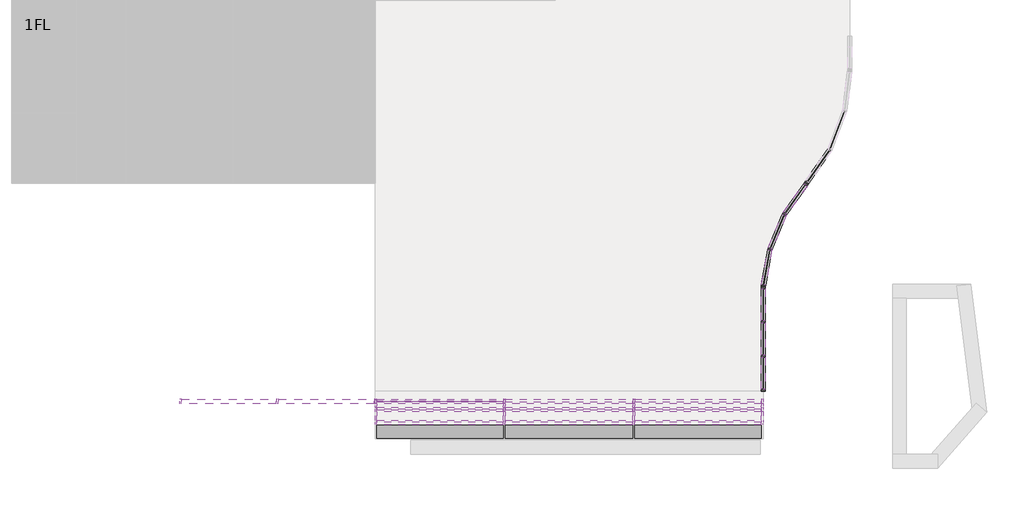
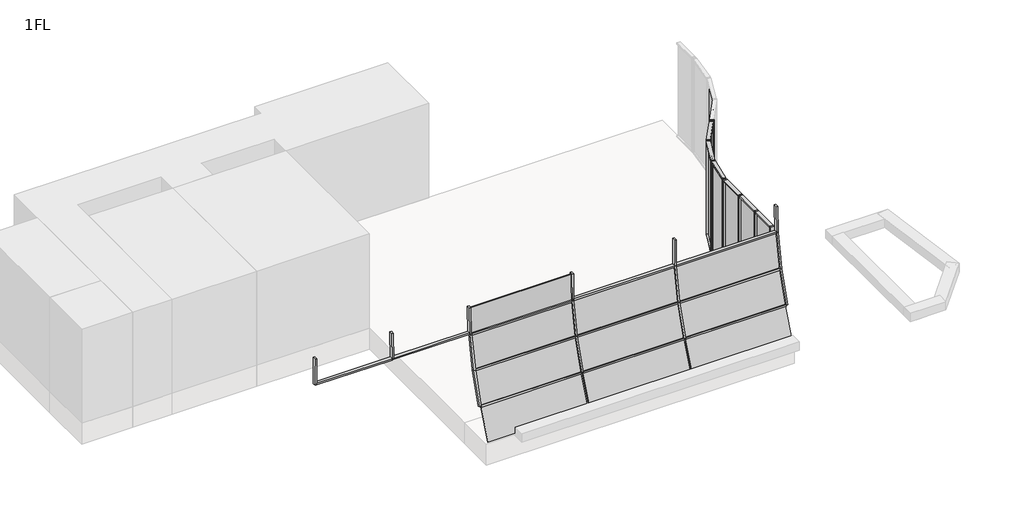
# One storey, part 1 of 2: 49 members, 18 plates.
"""IFC4 building model written with IfcOpenShell, lengths in millimetres."""

from ifc_helpers import new_model, si_unit, origin, place, context, project, spatial, transform, mapped, element, save
from components import member_70x150_4d24a05e, member_70x150_5c89d520, member_70x150_ebebe8d5, member_70x150_2632d942, member_70x150_0479a1cf, member_70x150_f2f57c5c, member_70x150_14443979, member_70x150_8f0671c1, member_70x150_d3b90ac0, member_70x150_846b0a58, member_70x150_fe2709cc, member_70x150_b7995fa3, member_70x150_663fd2c9, member_70x150_17e14e75, member_70x150_2ab56e3e, member_70x150_56af4ca9, member_70x150_03ec326a, member_70x150_3a6e4ddf, member_70x150_1d1a160b, member_70x150_440e44aa, member_70x150_7321a808, member_70x150_30001a1b, member_70x150_003f591b, member_70x150_271f9d11, member_70x150_020e1844, member_70x150_039baa39, member_70x150_b13c434b, member_70x150_567bd6b5, plate_7901c3a2, plate_e556b48b, plate_67e70ea2, plate_7e81487f, plate_5699c27d, plate_c64fcfb8, plate_3a21bd67, plate_3dea5f32, plate_f0e572d7, plate_c5bdbefa, plate_402fed1d, plate_96bf0072, plate_c99299e2, plate_2b88b301

model = new_model("IFC4")

# Units and contexts
model_context = context("Model", 3, world=origin())
ifc_project = project(units=[si_unit("LENGTHUNIT", "METRE", prefix="MILLI")], contexts=[model_context])

# Site, building, storey
site = spatial("IfcSite", under=ifc_project)
building = spatial("IfcBuilding", under=site)
storey = spatial("IfcBuildingStorey", under=building, Name="1FL", Elevation=100.0)

# Members
placement = place(None, origin())
member_70x150_shape = member_70x150_4d24a05e(model_context)
element("IfcMember", 1, ObjectType="長方形のマリオン : 70x150", at=placement, inside=storey, context=model_context, shape_type="MappedRepresentation", body=[
    mapped(member_70x150_shape, transform((-2015.9784025, -3918.6105823, 4599.9998123), x_axis=(0.0, 0.08763877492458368, 0.996152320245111), y_axis=(0.0, -0.996152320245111, 0.08763877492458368), z_axis=(1.0, 0.0, 0.0))),
])
element("IfcMember", 2, ObjectType="長方形のマリオン : 70x150", at=placement, inside=storey, context=model_context, shape_type="MappedRepresentation", body=[
    mapped(member_70x150_shape, transform((-11247.6450692, -3922.9667125, 4552.0971767), x_axis=(0.0, 0.09347810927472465, 0.9956213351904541), y_axis=(0.0, -0.9956213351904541, 0.09347810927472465), z_axis=(1.0, 0.0, 0.0))),
])
element("IfcMember", 3, ObjectType="長方形のマリオン : 70x150", at=placement, inside=storey, context=model_context, shape_type="MappedRepresentation", body=[
    mapped(member_70x150_shape, transform((-2015.9784025, -4664.0730705, 1551.663067), x_axis=(0.0, 0.3456418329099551, 0.9383665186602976), y_axis=(0.0, -0.9383665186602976, 0.3456418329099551), z_axis=(1.0, 0.0, 0.0))),
])
element("IfcMember", 4, ObjectType="長方形のマリオン : 70x150", at=placement, inside=storey, context=model_context, shape_type="MappedRepresentation", body=[
    mapped(member_70x150_shape, transform((-11247.6450692, -4664.0730705, 1551.663067), x_axis=(0.0, 0.34564183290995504, 0.9383665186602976), y_axis=(0.0, -0.9383665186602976, 0.34564183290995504), z_axis=(1.0, 0.0, 0.0))),
])
element("IfcMember", 5, ObjectType="長方形のマリオン : 70x150", at=placement, inside=storey, context=model_context, shape_type="MappedRepresentation", body=[
    mapped(member_70x150_shape, transform((-2015.9784025, -4202.2789625, 3006.0636344), x_axis=(0.0, 0.25083576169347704, 0.9680296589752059), y_axis=(0.0, -0.9680296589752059, 0.25083576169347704), z_axis=(1.0, 0.0, 0.0))),
])
element("IfcMember", 6, ObjectType="長方形のマリオン : 70x150", at=placement, inside=storey, context=model_context, shape_type="MappedRepresentation", body=[
    mapped(member_70x150_shape, transform((-11247.6450692, -4202.2789625, 3006.0636344), x_axis=(0.0, 0.2508357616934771, 0.9680296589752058), y_axis=(0.0, -0.9680296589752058, 0.2508357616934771), z_axis=(1.0, 0.0, 0.0))),
])
member_70x150_2_shape = member_70x150_5c89d520(model_context)
element("IfcMember", 7, ObjectType="長方形のマリオン : 70x150", at=placement, inside=storey, context=model_context, shape_type="MappedRepresentation", body=[
    mapped(member_70x150_2_shape, transform((-6614.3117358, -3918.6105823, 4599.9998123), x_axis=(0.0, 0.08763877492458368, 0.996152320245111), y_axis=(0.0, -0.996152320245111, 0.08763877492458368), z_axis=(1.0, 0.0, 0.0))),
])
element("IfcMember", 8, ObjectType="長方形のマリオン : 70x150", at=placement, inside=storey, context=model_context, shape_type="MappedRepresentation", body=[
    mapped(member_70x150_2_shape, transform((-6614.3117358, -4664.0730705, 1551.663067), x_axis=(0.0, 0.345641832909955, 0.9383665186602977), y_axis=(0.0, -0.9383665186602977, 0.345641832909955), z_axis=(1.0, 0.0, 0.0))),
])
element("IfcMember", 9, ObjectType="長方形のマリオン : 70x150", at=placement, inside=storey, context=model_context, shape_type="MappedRepresentation", body=[
    mapped(member_70x150_2_shape, transform((-6614.3117358, -4202.2789625, 3006.0636344), x_axis=(0.0, 0.2508357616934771, 0.9680296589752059), y_axis=(0.0, -0.9680296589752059, 0.2508357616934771), z_axis=(1.0, 0.0, 0.0))),
])
member_70x150_3_shape = member_70x150_ebebe8d5(model_context)
element("IfcMember", 10, ObjectType="長方形のマリオン : 70x150", at=placement, inside=storey, context=model_context, shape_type="MappedRepresentation", body=[
    mapped(member_70x150_3_shape, transform((-1945.9784025, -4664.0730705, 1551.663067), x_axis=(1.0, 0.0, 0.0), y_axis=(0.0, -0.953109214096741, 0.3026265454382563), z_axis=(0.0, -0.3026265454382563, -0.953109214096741))),
])
member_70x150_4_shape = member_70x150_2632d942(model_context)
element("IfcMember", 11, ObjectType="長方形のマリオン : 70x150", at=placement, inside=storey, context=model_context, shape_type="MappedRepresentation", body=[
    mapped(member_70x150_4_shape, transform((-1945.9784025, -4202.2789625, 3006.0636344), x_axis=(1.0, 0.0, 0.0), y_axis=(0.0, -0.9845303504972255, 0.1752141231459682), z_axis=(0.0, -0.1752141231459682, -0.9845303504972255))),
])
member_70x150_5_shape = member_70x150_0479a1cf(model_context)
element("IfcMember", 12, ObjectType="長方形のマリオン : 70x150", at=placement, inside=storey, context=model_context, shape_type="MappedRepresentation", body=[
    mapped(member_70x150_5_shape, transform((-22775.9784025, -3918.6105658, 4600.0), x_axis=(0.0, -0.014457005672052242, -0.9998954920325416), y_axis=(0.0, -0.9998954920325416, 0.014457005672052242), z_axis=(-1.0, 0.0, 0.0))),
])
member_70x150_6_shape = member_70x150_f2f57c5c(model_context)
element("IfcMember", 13, ObjectType="長方形のマリオン : 70x150", at=placement, inside=storey, context=model_context, shape_type="MappedRepresentation", body=[
    mapped(member_70x150_6_shape, transform((-15845.9784025, -3918.6105658, 4600.0), x_axis=(-1.0, 0.0, 0.0), y_axis=(0.0, -0.9958906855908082, 0.09056347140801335), z_axis=(0.0, 0.09056347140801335, 0.9958906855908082))),
])
member_70x150_7_shape = member_70x150_14443979(model_context)
element("IfcMember", 14, ObjectType="長方形のマリオン : 70x150", at=placement, inside=storey, context=model_context, shape_type="MappedRepresentation", body=[
    mapped(member_70x150_7_shape, transform((-19345.9784025, -3918.6105658, 4600.0), x_axis=(1.0, 0.0, 0.0), y_axis=(0.0, -0.999895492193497, 0.01445699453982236), z_axis=(0.0, -0.01445699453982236, -0.999895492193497))),
])
member_70x150_8_shape = member_70x150_8f0671c1(model_context)
element("IfcMember", 15, ObjectType="長方形のマリオン : 70x150", at=placement, inside=storey, context=model_context, shape_type="MappedRepresentation", body=[
    mapped(member_70x150_8_shape, transform((-15845.9784025, -3918.6105658, 4600.0), x_axis=(1.0, 0.0, 0.0), y_axis=(0.0, -0.999895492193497, 0.01445699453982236), z_axis=(0.0, -0.01445699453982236, -0.999895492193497))),
])
member_70x150_9_shape = member_70x150_d3b90ac0(model_context)
element("IfcMember", 16, ObjectType="長方形のマリオン : 70x150", at=placement, inside=storey, context=model_context, shape_type="MappedRepresentation", body=[
    mapped(member_70x150_9_shape, transform((-1945.9784025, -3918.6105823, 4599.9998123), x_axis=(1.0, 0.0, 0.0), y_axis=(0.0, -0.9998954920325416, 0.01445700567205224), z_axis=(0.0, -0.01445700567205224, -0.9998954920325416))),
])
member_70x150_10_shape = member_70x150_846b0a58(model_context)
element("IfcMember", 17, ObjectType="長方形のマリオン : 70x150", at=placement, inside=storey, context=model_context, shape_type="MappedRepresentation", body=[
    mapped(member_70x150_10_shape, transform((-15845.9784025, -4202.2789625, 3006.0636344), x_axis=(-1.0, 0.0, 0.0), y_axis=(0.0, -0.953109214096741, 0.3026265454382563), z_axis=(0.0, 0.3026265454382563, 0.953109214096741))),
])
member_70x150_11_shape = member_70x150_fe2709cc(model_context)
element("IfcMember", 18, ObjectType="長方形のマリオン : 70x150", at=placement, inside=storey, context=model_context, shape_type="MappedRepresentation", body=[
    mapped(member_70x150_11_shape, transform((-15845.9784025, -3922.9667125, 4552.0971767), x_axis=(-1.0, 0.0, 0.0), y_axis=(0.0, -0.9840692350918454, 0.1777856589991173), z_axis=(0.0, 0.1777856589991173, 0.9840692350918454))),
])
member_70x150_12_shape = member_70x150_b7995fa3(model_context)
element("IfcMember", 19, ObjectType="長方形のマリオン : 70x150", at=placement, inside=storey, context=model_context, shape_type="MappedRepresentation", body=[
    mapped(member_70x150_12_shape, transform((-19310.9784025, -3918.6105658, 4600.0), x_axis=(0.0, -0.014457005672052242, -0.9998954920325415), y_axis=(0.0, -0.9998954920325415, 0.014457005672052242), z_axis=(-1.0, 0.0, 0.0))),
])
member_70x150_13_shape = member_70x150_663fd2c9(model_context)
element("IfcMember", 20, ObjectType="長方形のマリオン : 70x150", at=placement, inside=storey, context=model_context, shape_type="MappedRepresentation", body=[
    mapped(member_70x150_13_shape, transform((-22845.9784025, -3900.6919984, 5839.309783), x_axis=(-1.0, 0.0, 0.0), y_axis=(0.0, -0.999895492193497, 0.01445699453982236), z_axis=(0.0, 0.01445699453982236, 0.999895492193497))),
])
member_70x150_14_shape = member_70x150_17e14e75(model_context)
element("IfcMember", 21, ObjectType="長方形のマリオン : 70x150", at=placement, inside=storey, context=model_context, shape_type="MappedRepresentation", body=[
    mapped(member_70x150_14_shape, transform((-6579.3117358, -4664.0730705, 1551.663067), x_axis=(1.0, 0.0, 0.0), y_axis=(0.0, -0.953109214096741, 0.3026265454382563), z_axis=(0.0, -0.3026265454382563, -0.953109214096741))),
])
member_70x150_15_shape = member_70x150_2ab56e3e(model_context)
element("IfcMember", 22, ObjectType="長方形のマリオン : 70x150", at=placement, inside=storey, context=model_context, shape_type="MappedRepresentation", body=[
    mapped(member_70x150_15_shape, transform((-6579.3117358, -4202.2789625, 3006.0636344), x_axis=(1.0, 0.0, 0.0), y_axis=(0.0, -0.9845303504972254, 0.17521412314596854), z_axis=(0.0, -0.17521412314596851, -0.9845303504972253))),
])
member_70x150_16_shape = member_70x150_56af4ca9(model_context)
element("IfcMember", 23, ObjectType="長方形のマリオン : 70x150", at=placement, inside=storey, context=model_context, shape_type="MappedRepresentation", body=[
    mapped(member_70x150_16_shape, transform((-6579.3117358, -3918.6105823, 4599.9998123), x_axis=(1.0, 0.0, 0.0), y_axis=(0.0, -0.9998954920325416, 0.014457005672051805), z_axis=(0.0, -0.014457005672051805, -0.9998954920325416))),
])
member_70x150_17_shape = member_70x150_03ec326a(model_context)
element("IfcMember", 24, ObjectType="長方形のマリオン : 70x150", at=placement, inside=storey, context=model_context, shape_type="MappedRepresentation", body=[
    mapped(member_70x150_17_shape, transform((-11212.6450692, -4664.0730705, 1551.663067), x_axis=(1.0, 0.0, 0.0), y_axis=(0.0, -0.953109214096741, 0.30262654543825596), z_axis=(0.0, -0.30262654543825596, -0.953109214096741))),
])
member_70x150_18_shape = member_70x150_3a6e4ddf(model_context)
element("IfcMember", 25, ObjectType="長方形のマリオン : 70x150", at=placement, inside=storey, context=model_context, shape_type="MappedRepresentation", body=[
    mapped(member_70x150_18_shape, transform((-11212.6450692, -4202.2789625, 3006.0636344), x_axis=(1.0, 0.0, 0.0), y_axis=(0.0, -0.9840692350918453, 0.17778565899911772), z_axis=(0.0, -0.1777856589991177, -0.9840692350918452))),
])
member_70x150_19_shape = member_70x150_1d1a160b(model_context)
element("IfcMember", 26, ObjectType="長方形のマリオン : 70x150", at=placement, inside=storey, context=model_context, shape_type="MappedRepresentation", body=[
    mapped(member_70x150_19_shape, transform((-11212.6450692, -3918.6105823, 4599.9998123), x_axis=(1.0, 0.0, 0.0), y_axis=(0.0, -0.9998954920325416, 0.014457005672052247), z_axis=(0.0, -0.014457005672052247, -0.9998954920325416))),
])
member_70x150_20_shape = member_70x150_440e44aa(model_context)
element("IfcMember", 27, ObjectType="長方形のマリオン : 70x150", at=placement, inside=storey, context=model_context, shape_type="MappedRepresentation", body=[
    mapped(member_70x150_20_shape, transform((-11212.6450692, -3922.9667125, 4552.0971767), x_axis=(1.0, 0.0, 0.0), y_axis=(0.0, -0.9958906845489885, 0.09056348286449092), z_axis=(0.0, -0.09056348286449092, -0.9958906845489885))),
])
member_70x150_21_shape = member_70x150_7321a808(model_context)
element("IfcMember", 28, ObjectType="長方形のマリオン : 70x150", at=placement, inside=storey, context=model_context, shape_type="MappedRepresentation", body=[
    mapped(member_70x150_21_shape, transform((-1945.9784025, -1092.0313348, 4600.0), x_axis=(0.0, 0.0, 1.0), y_axis=(1.0, 0.0, 0.0), z_axis=(0.0, 1.0, 0.0))),
])
member_70x150_22_shape = member_70x150_30001a1b(model_context)
element("IfcMember", 29, ObjectType="長方形のマリオン : 70x150", at=placement, inside=storey, context=model_context, shape_type="MappedRepresentation", body=[
    mapped(member_70x150_22_shape, transform((-1945.9784025, -2338.672218, 4600.0), x_axis=(0.0, 0.0, 1.0), y_axis=(1.0, 0.0, 0.0), z_axis=(0.0, 1.0, 0.0))),
])
element("IfcMember", 30, ObjectType="長方形のマリオン : 70x150", at=placement, inside=storey, context=model_context, shape_type="MappedRepresentation", body=[
    mapped(member_70x150_22_shape, transform((-1945.9784025, 119.6095485, 4600.0), x_axis=(0.0, 0.0, 1.0), y_axis=(1.0, 0.0, 0.0), z_axis=(0.0, 1.0, 0.0))),
])
element("IfcMember", 31, ObjectType="長方形のマリオン : 70x150", at=placement, inside=storey, context=model_context, shape_type="MappedRepresentation", body=[
    mapped(member_70x150_22_shape, transform((-1945.9784025, -1022.0313348, 100.0), x_axis=(0.0, 0.0, -1.0), y_axis=(1.0, 0.0, 0.0), z_axis=(0.0, -1.0, 0.0))),
])
element("IfcMember", 32, ObjectType="長方形のマリオン : 70x150", at=placement, inside=storey, context=model_context, shape_type="MappedRepresentation", body=[
    mapped(member_70x150_22_shape, transform((-1945.9784025, -3480.3131013, 100.0), x_axis=(0.0, 0.0, -1.0), y_axis=(1.0, 0.0, 0.0), z_axis=(0.0, -1.0, 0.0))),
])
element("IfcMember", 33, ObjectType="長方形のマリオン : 70x150", at=placement, inside=storey, context=model_context, shape_type="MappedRepresentation", body=[
    mapped(member_70x150_21_shape, transform((-1945.9784025, -2268.672218, 100.0), x_axis=(0.0, 0.0, -1.0), y_axis=(1.0, 0.0, 0.0), z_axis=(0.0, -1.0, 0.0))),
])
member_70x150_23_shape = member_70x150_003f591b(model_context)
element("IfcMember", 34, ObjectType="長方形のマリオン : 70x150", at=placement, inside=storey, context=model_context, shape_type="MappedRepresentation", body=[
    mapped(member_70x150_23_shape, transform((-1945.9784025, -1057.0313348, 4600.0), x_axis=(0.0, -1.0, 0.0), y_axis=(1.0, 0.0, 0.0), z_axis=(0.0, 0.0, 1.0))),
])
element("IfcMember", 35, ObjectType="長方形のマリオン : 70x150", at=placement, inside=storey, context=model_context, shape_type="MappedRepresentation", body=[
    mapped(member_70x150_23_shape, transform((-1945.9784025, -2303.672218, 4600.0), x_axis=(0.0, -1.0, 0.0), y_axis=(1.0, 0.0, 0.0), z_axis=(0.0, 0.0, 1.0))),
])
element("IfcMember", 36, ObjectType="長方形のマリオン : 70x150", at=placement, inside=storey, context=model_context, shape_type="MappedRepresentation", body=[
    mapped(member_70x150_23_shape, transform((-1709.3160563, 1531.2966226, 4600.0), x_axis=(-0.2813186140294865, -0.9596144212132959, 0.0), y_axis=(0.9596144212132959, -0.2813186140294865, 0.0), z_axis=(0.0, 0.0, 1.0))),
])
element("IfcMember", 37, ObjectType="長方形のマリオン : 70x150", at=placement, inside=storey, context=model_context, shape_type="MappedRepresentation", body=[
    mapped(member_70x150_23_shape, transform((-1184.1227038, 2788.3985332, 4600.0), x_axis=(-0.4849557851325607, -0.874538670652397, 0.0), y_axis=(0.874538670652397, -0.4849557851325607, 0.0), z_axis=(0.0, 0.0, 1.0))),
])
member_70x150_24_shape = member_70x150_271f9d11(model_context)
element("IfcMember", 38, ObjectType="長方形のマリオン : 70x150", at=placement, inside=storey, context=model_context, shape_type="MappedRepresentation", body=[
    mapped(member_70x150_24_shape, transform((-1945.9784025, -3550.3131013, 4600.0), x_axis=(0.0, -1.0, 0.0), y_axis=(1.0, 0.0, 0.0), z_axis=(0.0, 0.0, 1.0))),
])
element("IfcMember", 39, ObjectType="長方形のマリオン : 70x150", at=placement, inside=storey, context=model_context, shape_type="MappedRepresentation", body=[
    mapped(member_70x150_24_shape, transform((-1945.9784025, 189.6095485, 4600.0), x_axis=(-0.1737099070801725, -0.9847968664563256, 0.0), y_axis=(0.9847968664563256, -0.1737099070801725, 0.0), z_axis=(0.0, 0.0, 1.0))),
])
element("IfcMember", 40, ObjectType="長方形のマリオン : 70x150", at=placement, inside=storey, context=model_context, shape_type="MappedRepresentation", body=[
    mapped(member_70x150_24_shape, transform((-395.9784025, 3899.6868987, 4600.0), x_axis=(-0.570250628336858, -0.8214707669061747, 0.0), y_axis=(0.8214707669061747, -0.570250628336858, 0.0), z_axis=(0.0, 0.0, 1.0))),
])
element("IfcMember", 41, ObjectType="長方形のマリオン : 70x150", at=placement, inside=storey, context=model_context, shape_type="MappedRepresentation", body=[
    mapped(member_70x150_24_shape, transform((-1945.9784025, 189.6095485, 100.0), x_axis=(0.0, 1.0, 0.0), y_axis=(1.0, 0.0, 0.0), z_axis=(0.0, 0.0, -1.0))),
])
element("IfcMember", 42, ObjectType="長方形のマリオン : 70x150", at=placement, inside=storey, context=model_context, shape_type="MappedRepresentation", body=[
    mapped(member_70x150_24_shape, transform((-395.9784025, 3899.6868987, 100.0), x_axis=(0.5784970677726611, 0.8156844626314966, 0.0), y_axis=(0.8156844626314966, -0.5784970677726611, 0.0), z_axis=(0.0, 0.0, -1.0))),
])
member_70x150_25_shape = member_70x150_020e1844(model_context)
element("IfcMember", 43, ObjectType="長方形のマリオン : 70x150", at=placement, inside=storey, context=model_context, shape_type="MappedRepresentation", body=[
    mapped(member_70x150_25_shape, transform((-436.4731973, 3842.5889863, 4600.0), x_axis=(0.0, 0.0, 1.0), y_axis=(0.8156844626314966, -0.578497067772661, 0.0), z_axis=(0.5784970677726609, 0.8156844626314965, 0.0))),
])
element("IfcMember", 44, ObjectType="長方形のマリオン : 70x150", at=placement, inside=storey, context=model_context, shape_type="MappedRepresentation", body=[
    mapped(member_70x150_25_shape, transform((-1933.818709, 258.5453291, 100.0), x_axis=(0.0, 0.0, -1.0), y_axis=(0.9847968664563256, -0.17370990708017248, 0.0), z_axis=(-0.17370990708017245, -0.9847968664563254, 0.0))),
])
member_70x150_26_shape = member_70x150_039baa39(model_context)
element("IfcMember", 45, ObjectType="長方形のマリオン : 70x150", at=placement, inside=storey, context=model_context, shape_type="MappedRepresentation", body=[
    mapped(member_70x150_26_shape, transform((-1715.395903, 1496.8287323, 4600.0), x_axis=(0.0, 0.0, 1.0), y_axis=(0.9847968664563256, -0.17370990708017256, 0.0), z_axis=(0.17370990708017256, 0.9847968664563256, 0.0))),
])
member_70x150_27_shape = member_70x150_b13c434b(model_context)
element("IfcMember", 46, ObjectType="長方形のマリオン : 70x150", at=placement, inside=storey, context=model_context, shape_type="MappedRepresentation", body=[
    mapped(member_70x150_27_shape, transform((-1197.6149012, 2756.1036325, 4600.0), x_axis=(0.0, 0.0, 1.0), y_axis=(0.9227114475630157, -0.3854913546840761, 0.0), z_axis=(0.385491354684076, 0.9227114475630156, 0.0))),
])
element("IfcMember", 47, ObjectType="長方形のマリオン : 70x150", at=placement, inside=storey, context=model_context, shape_type="MappedRepresentation", body=[
    mapped(member_70x150_27_shape, transform((-1695.8238589, 1563.5915233, 100.0), x_axis=(0.0, 0.0, -1.0), y_axis=(0.9227114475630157, -0.3854913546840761, 0.0), z_axis=(-0.385491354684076, -0.9227114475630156, 0.0))),
])
element("IfcMember", 48, ObjectType="長方形のマリオン : 70x150", at=placement, inside=storey, context=model_context, shape_type="MappedRepresentation", body=[
    mapped(member_70x150_26_shape, transform((-1163.8753065, 2816.9474894, 100.0), x_axis=(0.0, 0.0, -1.0), y_axis=(0.8156844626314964, -0.5784970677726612, 0.0), z_axis=(-0.5784970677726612, -0.8156844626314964, 0.0))),
])
member_70x150_28_shape = member_70x150_567bd6b5(model_context)
element("IfcMember", 49, ObjectType="長方形のマリオン : 70x150", at=placement, inside=storey, context=model_context, shape_type="MappedRepresentation", body=[
    mapped(member_70x150_28_shape, transform((-356.0608585, 3957.1898524, 100.0), x_axis=(0.0, 0.0, -1.0), y_axis=(0.8214707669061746, -0.5702506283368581, 0.0), z_axis=(-0.5702506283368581, -0.8214707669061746, 0.0))),
])

# Plates
plate_shape = plate_7901c3a2(model_context)
element("IfcPlate", 50, ObjectType="システム パネル : 標準", at=placement, inside=storey, context=model_context, shape_type="MappedRepresentation", body=[
    mapped(plate_shape, transform((-13511.8117358, -5224.1010152, 164.9070608), x_axis=(1.0, 0.0, 0.0), y_axis=(0.0, 0.9272437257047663, -0.3744583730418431), z_axis=(0.0, 0.3744583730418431, 0.9272437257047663))),
])
element("IfcPlate", 51, ObjectType="システム パネル : 標準", at=placement, inside=storey, context=model_context, shape_type="MappedRepresentation", body=[
    mapped(plate_shape, transform((-4280.1450692, -5224.1010152, 164.9070608), x_axis=(1.0, 0.0, 0.0), y_axis=(0.0, 0.9272437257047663, -0.37445837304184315), z_axis=(0.0, 0.37445837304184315, 0.9272437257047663))),
])
plate_2_shape = plate_e556b48b(model_context)
element("IfcPlate", 52, ObjectType="システム パネル : 標準", at=placement, inside=storey, context=model_context, shape_type="MappedRepresentation", body=[
    mapped(plate_2_shape, transform((-13511.8117358, -4653.4811414, 1585.0218895), x_axis=(1.0, 0.0, 0.0), y_axis=(0.0, 0.953109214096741, -0.30262654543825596), z_axis=(0.0, 0.30262654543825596, 0.953109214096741))),
])
element("IfcPlate", 53, ObjectType="システム パネル : 標準", at=placement, inside=storey, context=model_context, shape_type="MappedRepresentation", body=[
    mapped(plate_2_shape, transform((-4280.1450692, -4653.4811414, 1585.0218895), x_axis=(1.0, 0.0, 0.0), y_axis=(0.0, 0.9531092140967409, -0.3026265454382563), z_axis=(0.0, 0.3026265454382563, 0.9531092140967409))),
])
plate_3_shape = plate_67e70ea2(model_context)
element("IfcPlate", 54, ObjectType="システム パネル : 標準", at=placement, inside=storey, context=model_context, shape_type="MappedRepresentation", body=[
    mapped(plate_3_shape, transform((-13511.8117358, -4196.1464682, 3040.5221967), x_axis=(1.0, 0.0, 0.0), y_axis=(0.0, 0.9845303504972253, -0.17521412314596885), z_axis=(0.0, 0.17521412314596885, 0.9845303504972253))),
])
plate_4_shape = plate_7e81487f(model_context)
element("IfcPlate", 55, ObjectType="システム パネル : 標準", at=placement, inside=storey, context=model_context, shape_type="MappedRepresentation", body=[
    mapped(plate_4_shape, transform((-13529.3117358, -3918.7979539, 4587.0405608), x_axis=(1.0, 0.0, 0.0), y_axis=(0.0, 0.9998954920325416, -0.01445700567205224), z_axis=(0.0, 0.01445700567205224, 0.9998954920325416))),
])
plate_5_shape = plate_5699c27d(model_context)
element("IfcPlate", 56, ObjectType="システム パネル : 標準", at=placement, inside=storey, context=model_context, shape_type="MappedRepresentation", body=[
    mapped(plate_5_shape, transform((-8895.9784025, -5224.1010152, 164.9070608), x_axis=(1.0, 0.0, 0.0), y_axis=(0.0, 0.9272437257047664, -0.3744583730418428), z_axis=(0.0, 0.3744583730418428, 0.9272437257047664))),
])
plate_6_shape = plate_c64fcfb8(model_context)
element("IfcPlate", 57, ObjectType="システム パネル : 標準", at=placement, inside=storey, context=model_context, shape_type="MappedRepresentation", body=[
    mapped(plate_6_shape, transform((-8895.9784025, -4653.4811414, 1585.0218895), x_axis=(1.0, 0.0, 0.0), y_axis=(0.0, 0.9531092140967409, -0.30262654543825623), z_axis=(0.0, 0.30262654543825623, 0.9531092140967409))),
])
plate_7_shape = plate_3a21bd67(model_context)
element("IfcPlate", 58, ObjectType="システム パネル : 標準", at=placement, inside=storey, context=model_context, shape_type="MappedRepresentation", body=[
    mapped(plate_7_shape, transform((-8895.9784025, -4196.1464682, 3040.5221967), x_axis=(1.0, 0.0, 0.0), y_axis=(0.0, 0.9845303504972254, -0.17521412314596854), z_axis=(0.0, 0.17521412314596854, 0.9845303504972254))),
])
plate_8_shape = plate_3dea5f32(model_context)
element("IfcPlate", 59, ObjectType="システム パネル : 標準", at=placement, inside=storey, context=model_context, shape_type="MappedRepresentation", body=[
    mapped(plate_8_shape, transform((-4280.1450692, -4196.1464682, 3040.5221967), x_axis=(1.0, 0.0, 0.0), y_axis=(0.0, 0.9845303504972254, -0.17521412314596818), z_axis=(0.0, 0.17521412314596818, 0.9845303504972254))),
])
plate_9_shape = plate_f0e572d7(model_context)
element("IfcPlate", 60, ObjectType="システム パネル : 標準", at=placement, inside=storey, context=model_context, shape_type="MappedRepresentation", body=[
    mapped(plate_9_shape, transform((-1945.9784025, -451.2108932, 170.0), x_axis=(0.0, -1.0, 0.0), y_axis=(1.0, 0.0, 0.0), z_axis=(0.0, 0.0, 1.0))),
])
element("IfcPlate", 61, ObjectType="システム パネル : 標準", at=placement, inside=storey, context=model_context, shape_type="MappedRepresentation", body=[
    mapped(plate_9_shape, transform((-1945.9784025, -2909.4926597, 170.0), x_axis=(0.0, -1.0, 0.0), y_axis=(1.0, 0.0, 0.0), z_axis=(0.0, 0.0, 1.0))),
])
plate_10_shape = plate_c5bdbefa(model_context)
element("IfcPlate", 62, ObjectType="システム パネル : 標準", at=placement, inside=storey, context=model_context, shape_type="MappedRepresentation", body=[
    mapped(plate_10_shape, transform((-1945.9784025, -1680.3517764, 170.0), x_axis=(0.0, -1.0, 0.0), y_axis=(1.0, 0.0, 0.0), z_axis=(0.0, 0.0, 1.0))),
])
plate_11_shape = plate_402fed1d(model_context)
element("IfcPlate", 63, ObjectType="システム パネル : 標準", at=placement, inside=storey, context=model_context, shape_type="MappedRepresentation", body=[
    mapped(plate_11_shape, transform((-800.1742519, 3329.7682378, 4530.0), x_axis=(-0.5784970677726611, -0.8156844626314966, 0.0), y_axis=(-0.8156844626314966, 0.5784970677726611, 0.0), z_axis=(0.0, 0.0, -1.0))),
])
element("IfcPlate", 64, ObjectType="システム パネル : 標準", at=placement, inside=storey, context=model_context, shape_type="MappedRepresentation", body=[
    mapped(plate_11_shape, transform((-1824.607306, 877.6870307, 4530.0), x_axis=(-0.1737099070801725, -0.9847968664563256, 0.0), y_axis=(-0.9847968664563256, 0.1737099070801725, 0.0), z_axis=(0.0, 0.0, -1.0))),
])
plate_12_shape = plate_96bf0072(model_context)
element("IfcPlate", 65, ObjectType="システム パネル : 標準", at=placement, inside=storey, context=model_context, shape_type="MappedRepresentation", body=[
    mapped(plate_12_shape, transform((-1446.7193801, 2159.8475779, 4530.0), x_axis=(-0.385491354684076, -0.9227114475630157, 0.0), y_axis=(-0.9227114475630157, 0.385491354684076, 0.0), z_axis=(0.0, 0.0, -1.0))),
])
plate_13_shape = plate_c99299e2(model_context)
element("IfcPlate", 66, ObjectType="システム パネル : 標準", at=placement, inside=storey, context=model_context, shape_type="MappedRepresentation", body=[
    mapped(plate_13_shape, transform((34.2637888, 4519.4694386, 170.0), x_axis=(0.570250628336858, 0.8214707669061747, 0.0), y_axis=(-0.8214707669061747, 0.570250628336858, 0.0), z_axis=(0.0, 0.0, 1.0))),
])
plate_14_shape = plate_2b88b301(model_context)
element("IfcPlate", 67, ObjectType="システム パネル : 標準", at=placement, inside=storey, context=model_context, shape_type="MappedRepresentation", body=[
    mapped(plate_14_shape, transform((707.9680976, 5798.7937937, 170.0), x_axis=(0.3574333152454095, 0.9339386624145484, 0.0), y_axis=(-0.9339386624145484, 0.3574333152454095, 0.0), z_axis=(0.0, 0.0, 1.0))),
])

save(model, "model.ifc")
